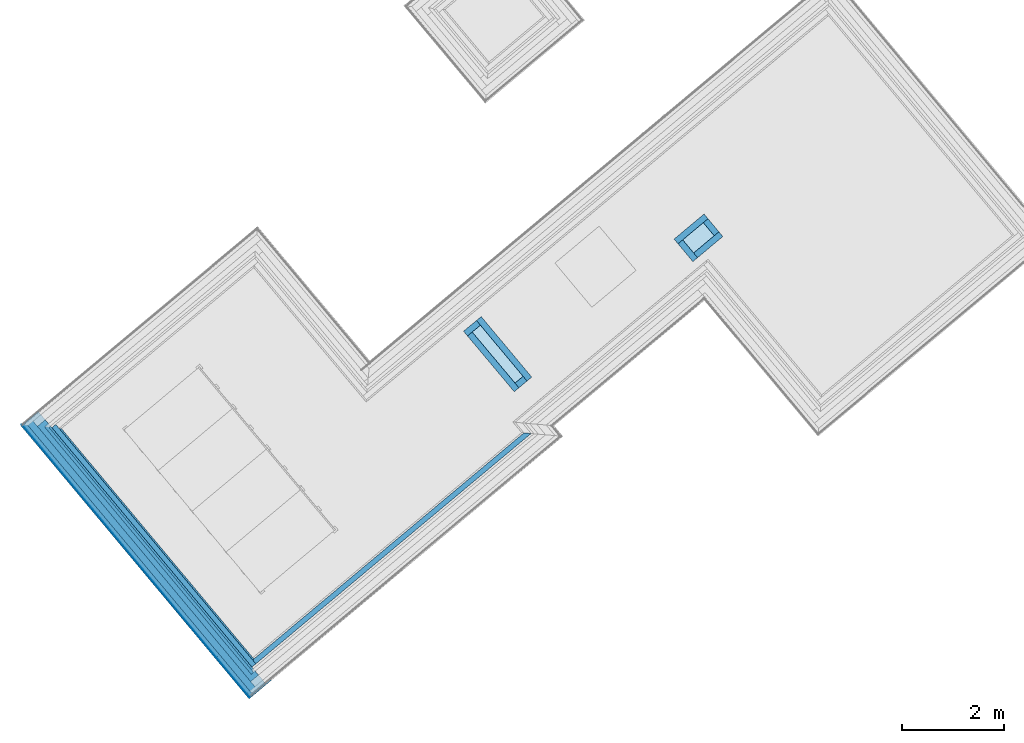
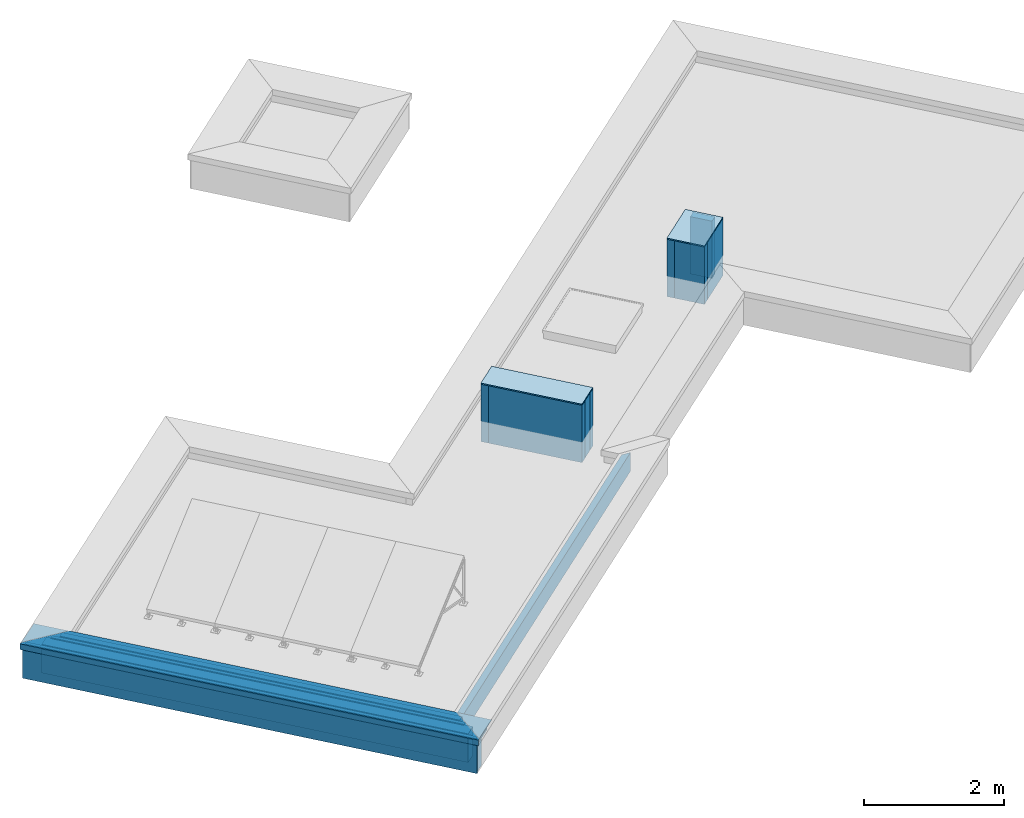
# One storey, part 1 of 13: 10 building element parts, 8 walls, 2 plates, 2 elements without a shape of their own.
"""IFC4 building model written with IfcOpenShell, lengths in metres."""

from ifc_helpers import new_model, entity, si_unit, converted_unit, derived_unit, direction, frame, origin_with_axes, place, context, subcontext, project, spatial, polygons, material, type_object, element, aggregate, save


model = new_model("IFC4")

# Units and contexts
model_context = context("Model", 3, precision=1e-05, world=origin_with_axes(), true_north=direction((0.0, 1.0)))
body_context = subcontext(model_context, "Body", "Model", "MODEL_VIEW")
ifc_project = project(units=[si_unit("LENGTHUNIT", "METRE"), si_unit("AREAUNIT", "SQUARE_METRE"), si_unit("VOLUMEUNIT", "CUBIC_METRE"), converted_unit("PLANEANGLEUNIT", "DEGREE", entity("IfcPlaneAngleMeasure", 0.0174532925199), si_unit("PLANEANGLEUNIT", "RADIAN"), dimensions=[0, 0, 0, 0, 0, 0, 0]), converted_unit("TIMEUNIT", "Year", entity("IfcTimeMeasure", 31556926.0), si_unit("TIMEUNIT", "SECOND"), dimensions=[0, 0, 1, 0, 0, 0, 0]), si_unit("MASSUNIT", "GRAM", prefix="KILO"), si_unit("THERMODYNAMICTEMPERATUREUNIT", "DEGREE_CELSIUS"), si_unit("LUMINOUSINTENSITYUNIT", "LUMEN"), si_unit("ENERGYUNIT", "JOULE", prefix="MEGA"), derived_unit("THERMALCONDUCTANCEUNIT", [(si_unit("POWERUNIT", "WATT"), 1), (si_unit("LENGTHUNIT", "METRE"), -1), (si_unit("THERMODYNAMICTEMPERATUREUNIT", "KELVIN"), -1)]), derived_unit("SPECIFICHEATCAPACITYUNIT", [(si_unit("ENERGYUNIT", "JOULE"), 1), (si_unit("MASSUNIT", "GRAM", prefix="KILO"), -1), (si_unit("THERMODYNAMICTEMPERATUREUNIT", "KELVIN"), -1)]), derived_unit("MASSDENSITYUNIT", [(si_unit("MASSUNIT", "GRAM", prefix="KILO"), 1), (si_unit("VOLUMEUNIT", "CUBIC_METRE"), -1)])], contexts=[model_context])

# Site, building, storey
site_placement = place(None, frame((-0.00153261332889, -0.00661245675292, 0.0), z_axis=(0.0, 0.0, 1.0), x_axis=(1.0, 0.0, 0.0)))
site = spatial("IfcSite", under=ifc_project, at=site_placement, Name="Gelände", CompositionType="ELEMENT")
building_placement = place(site_placement, origin_with_axes())
building = spatial("IfcBuilding", under=site, at=building_placement, Name="Gebäude", CompositionType="ELEMENT")
storey_placement = place(building_placement, frame((0.0, 0.0, 11.84), z_axis=(0.0, 0.0, 1.0), x_axis=(1.0, 0.0, 0.0)))
storey = spatial("IfcBuildingStorey", under=building, at=storey_placement, Name="DA", CompositionType="ELEMENT", Elevation=11.84)

# Plates
ifc_material_1 = material(Name="Blech")
plate_type = type_object("IfcPlateType", Name="Blech 20", PredefinedType="NOTDEFINED")
plate_1_placement = place(storey_placement, frame((0.883157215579, 19.7164409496, 1.0), z_axis=(0.0, 0.0, 1.0), x_axis=(0.769608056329, 0.638516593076, 0.0)))
element("IfcPlate", 1, at=plate_1_placement, inside=storey, type_object=plate_type, material=ifc_material_1, Name="Dach-002", PredefinedType="NOTDEFINED", context=body_context, shape_type="Tessellation", body=[
    polygons([(0.448840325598, 0.0, 0.02), (0.448840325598, 0.0, 0.0), (0.0, 0.0, 0.0), (0.0, 0.0, 0.02), (0.454235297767, -1.53957077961, 0.02), (0.454235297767, -1.53957077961, 0.0), (0.00809973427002, -1.54113413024, 0.0), (0.00809973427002, -1.54113413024, 0.02)], [[[1, 2, 3, 4]], [[5, 6, 2, 1]], [[3, 2, 6, 7]], [[4, 3, 7, 8]], [[5, 1, 4, 8]], [[8, 7, 6, 5]]], closed=True),
])
plate_2_placement = place(storey_placement, frame((4.99291504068, 21.5151888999, 1.0), z_axis=(0.0, 0.0, 1.0), x_axis=(0.767365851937, 0.641209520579, 0.0)))
element("IfcPlate", 2, at=plate_2_placement, inside=storey, type_object=plate_type, material=ifc_material_1, Name="Dach-003", PredefinedType="NOTDEFINED", context=body_context, shape_type="Tessellation", body=[
    polygons([(0.764405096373, 0.0, 0.02), (0.764405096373, 0.0, 0.0), (0.0, 0.0, 0.0), (0.0, 0.0, 0.02), (0.763279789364, -0.572701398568, 0.02), (0.763279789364, -0.572701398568, 0.0), (0.0, -0.572701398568, 0.0), (0.0, -0.572701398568, 0.02)], [[[1, 2, 3, 4]], [[5, 6, 2, 1]], [[3, 2, 6, 7]], [[4, 3, 7, 8]], [[5, 1, 4, 8]], [[8, 7, 6, 5]]], closed=True),
])

# Walls
ifc_material_2 = material(Name="Stahlbeton Decke Garage")
wall_type_1 = type_object("IfcWallType", Name="Stahlbeton Decke Garage 120", PredefinedType="NOTDEFINED")
wall_1_placement = place(storey_placement, frame((5.56417353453, 21.8361523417, 0.0), z_axis=(0.0, 0.0, 1.0), x_axis=(-0.767365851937, -0.641209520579, 0.0)))
element("IfcWall", 3, at=wall_1_placement, inside=storey, type_object=wall_type_1, material=ifc_material_2, Name="Wand-003", PredefinedType="NOTDEFINED", context=body_context, shape_type="Tessellation", body=[
    polygons([(0.644169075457, -0.12, 1.0), (0.644169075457, 0.0, 1.0), (-0.120000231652, 0.0, 1.0), (-0.120236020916, -0.12, 1.0), (0.644169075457, -0.12, 0.0), (0.644169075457, 0.0, 0.0), (-0.120000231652, 0.0, 0.0), (-0.120236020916, -0.12, 0.0)], [[[1, 2, 3, 4]], [[2, 1, 5, 6]], [[2, 6, 7, 3]], [[8, 4, 3, 7]], [[5, 1, 4, 8]], [[6, 5, 8, 7]]], closed=True),
])
wall_2_placement = place(storey_placement, frame((5.16194408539, 21.5000501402, 0.0), z_axis=(0.0, 0.0, 1.0), x_axis=(0.641209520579, -0.767365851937, 0.0)))
element("IfcWall", 4, at=wall_2_placement, inside=storey, type_object=wall_type_1, material=ifc_material_2, Name="Wand-004", PredefinedType="NOTDEFINED", context=body_context, shape_type="Tessellation", body=[
    polygons([(0.452701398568, -0.12, 1.0), (0.452701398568, 0.0, 1.0), (0.0, 0.0, 1.0), (0.0, -0.12, 1.0), (0.452701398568, -0.12, 0.0), (0.452701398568, 0.0, 0.0), (0.0, 0.0, 0.0), (0.0, -0.12, 0.0)], [[[1, 2, 3, 4]], [[2, 1, 5, 6]], [[2, 6, 7, 3]], [[8, 4, 3, 7]], [[5, 1, 4, 8]], [[6, 5, 8, 7]]], closed=True),
])
wall_3_placement = place(storey_placement, frame((5.37527538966, 21.244746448, 0.0), z_axis=(0.0, 0.0, 1.0), x_axis=(0.767365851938, 0.641209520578, 0.0)))
element("IfcWall", 5, at=wall_3_placement, inside=storey, type_object=wall_type_1, material=ifc_material_2, Name="Wand-005", PredefinedType="NOTDEFINED", context=body_context, shape_type="Tessellation", body=[
    polygons([(0.643279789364, -0.12, 1.0), (0.643515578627, 0.0, 1.0), (0.0, 0.0, 1.0), (0.0, -0.12, 1.0), (0.643279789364, -0.12, 0.0), (0.643515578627, 0.0, 0.0), (0.0, 0.0, 0.0), (0.0, -0.12, 0.0)], [[[1, 2, 3, 4]], [[2, 1, 5, 6]], [[2, 6, 7, 3]], [[8, 4, 3, 7]], [[5, 1, 4, 8]], [[6, 5, 8, 7]]], closed=True),
])
wall_4_placement = place(storey_placement, frame((5.77700318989, 21.5804294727, 0.0), z_axis=(0.0, 0.0, 1.0), x_axis=(-0.639700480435, 0.768624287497, 0.0)))
element("IfcWall", 6, at=wall_4_placement, inside=storey, type_object=wall_type_1, material=ifc_material_2, Name="Wand-006", PredefinedType="NOTDEFINED", context=body_context, shape_type="Tessellation", body=[
    polygons([(0.33293783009, -0.12, 1.0), (0.332702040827, 0.0, 1.0), (0.0, 0.0, 1.0), (0.000235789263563, -0.12, 1.0), (0.33293783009, -0.12, 0.0), (0.332702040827, 0.0, 0.0), (0.0, 0.0, 0.0), (0.000235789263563, -0.12, 0.0)], [[[1, 2, 3, 4]], [[2, 1, 5, 6]], [[2, 6, 7, 3]], [[8, 4, 3, 7]], [[5, 1, 4, 8]], [[6, 5, 8, 7]]], closed=True),
])
wall_5_placement = place(storey_placement, frame((2.0467528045, 18.8367504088, 0.0), z_axis=(0.0, 0.0, 1.0), x_axis=(-0.641209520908, 0.767365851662, 0.0)))
element("IfcWall", 7, at=wall_5_placement, inside=storey, type_object=wall_type_1, material=ifc_material_2, Name="Wand-007", PredefinedType="NOTDEFINED", context=body_context, shape_type="Tessellation", body=[
    polygons([(1.41958023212, -0.12, 1.0), (1.42000073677, 0.0, 1.0), (-0.12, 0.0, 1.0), (-0.12, -0.12, 1.0), (1.41958023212, -0.12, 0.0), (1.42000073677, 0.0, 0.0), (-0.12, 0.0, 0.0), (-0.12, -0.12, 0.0)], [[[1, 2, 3, 4]], [[2, 1, 5, 6]], [[2, 6, 7, 3]], [[8, 4, 3, 7]], [[5, 1, 4, 8]], [[6, 5, 8, 7]]], closed=True),
])
wall_6_placement = place(storey_placement, frame((1.21318042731, 19.834326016, 0.0), z_axis=(0.0, 0.0, 1.0), x_axis=(-0.769608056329, -0.638516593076, 0.0)))
element("IfcWall", 8, at=wall_6_placement, inside=storey, type_object=wall_type_1, material=ifc_material_2, Name="Wand-008", PredefinedType="NOTDEFINED", context=body_context, shape_type="Tessellation", body=[
    polygons([(0.329260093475, -0.12, 1.0), (0.328629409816, 0.0, 1.0), (0.0, 0.0, 1.0), (0.000420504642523, -0.12, 1.0), (0.329260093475, -0.12, 0.0), (0.328629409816, 0.0, 0.0), (0.0, 0.0, 0.0), (0.000420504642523, -0.12, 0.0)], [[[1, 2, 3, 4]], [[2, 1, 5, 6]], [[2, 6, 7, 3]], [[8, 4, 3, 7]], [[5, 1, 4, 8]], [[6, 5, 8, 7]]], closed=True),
])
wall_7_placement = place(storey_placement, frame((1.05261882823, 19.7011137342, 0.0), z_axis=(0.0, 0.0, 1.0), x_axis=(0.642552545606, -0.766241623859, 0.0)))
element("IfcWall", 9, at=wall_7_placement, inside=storey, type_object=wall_type_1, material=ifc_material_2, Name="Wand-009", PredefinedType="NOTDEFINED", context=body_context, shape_type="Tessellation", body=[
    polygons([(1.42052307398, -0.12, 1.0), (1.42073324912, 0.0, 1.0), (0.0, 0.0, 1.0), (-0.000630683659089, -0.12, 1.0), (1.42052307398, -0.12, 0.0), (1.42073324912, 0.0, 0.0), (0.0, 0.0, 0.0), (-0.000630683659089, -0.12, 0.0)], [[[1, 2, 3, 4]], [[2, 1, 5, 6]], [[2, 6, 7, 3]], [[8, 4, 3, 7]], [[5, 1, 4, 8]], [[6, 5, 8, 7]]], closed=True),
])
wall_8_placement = place(storey_placement, frame((1.88840817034, 18.7044379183, 0.0), z_axis=(0.0, 0.0, 1.0), x_axis=(0.767365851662, 0.641209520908, 0.0)))
element("IfcWall", 10, at=wall_8_placement, inside=storey, type_object=wall_type_1, material=ifc_material_2, Name="Wand-010", PredefinedType="NOTDEFINED", context=body_context, shape_type="Tessellation", body=[
    polygons([(0.206348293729, -0.12, 1.0), (0.206348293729, 0.0, 1.0), (0.0, 0.0, 1.0), (0.000210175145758, -0.12, 1.0), (0.206348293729, -0.12, 0.0), (0.206348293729, 0.0, 0.0), (0.0, 0.0, 0.0), (0.000210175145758, -0.12, 0.0)], [[[1, 2, 3, 4]], [[2, 1, 5, 6]], [[2, 6, 7, 3]], [[8, 4, 3, 7]], [[5, 1, 4, 8]], [[6, 5, 8, 7]]], closed=True),
])

# Wall, building element parts
wall_type_2 = type_object("IfcWallType", Name="Individuelles Profil 574 x 610", PredefinedType="NOTDEFINED")
wall_9_placement = place(storey_placement, frame((-3.27188579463, 12.8778068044, 0.0), z_axis=(0.0, 0.0, 1.0), x_axis=(-0.641209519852, 0.767365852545, 0.0)))
wall_9 = element("IfcWall", 11, at=wall_9_placement, inside=storey, type_object=wall_type_2, Name="Wand-004", PredefinedType="NOTDEFINED")
ifc_material_3 = material(Name="Zementputz")
building_element_part_1_placement = place(wall_9_placement, origin_with_axes())
building_element_part_1 = element("IfcBuildingElementPart", 12, at=building_element_part_1_placement, material=ifc_material_3, Name="Zementputz", PredefinedType="NOTDEFINED", context=body_context, shape_type="Tessellation", body=[
    polygons([(6.70719506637, 0.199999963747, 0.0), (6.70719506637, 0.199999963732, 0.50000001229), (-0.215130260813, 0.19999996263, 0.50000001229), (-0.215129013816, 0.199999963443, 0.0), (6.70719506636, 0.214999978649, 0.0), (6.70719506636, 0.214999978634, 0.50000001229), (-0.215140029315, 0.214999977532, 0.50000001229), (-0.21513875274, 0.214999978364, 0.0)], [[[1, 2, 3, 4]], [[2, 1, 5, 6]], [[2, 6, 7, 3]], [[4, 3, 7, 8]], [[5, 1, 4, 8]], [[6, 5, 8, 7]]], closed=True),
])
ifc_material_4 = material(Name="Vollholz")
building_element_part_2_placement = place(wall_9_placement, origin_with_axes())
building_element_part_2 = element("IfcBuildingElementPart", 13, at=building_element_part_2_placement, material=ifc_material_4, Name="Vollholz", PredefinedType="NOTDEFINED", context=body_context, shape_type="Tessellation", body=[
    polygons([(6.68219122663, 0.189996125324, 0.584015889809), (6.68219122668, 0.130124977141, 0.584015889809), (6.68223434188, 0.130124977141, 0.575979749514), (6.68223434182, 0.190039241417, 0.575979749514), (6.68218025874, 0.189984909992, 0.586106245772), (-0.190080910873, 0.13012497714, 0.584015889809), (-0.190124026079, 0.130124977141, 0.575979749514), (-0.190135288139, 0.130124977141, 0.573880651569), (-0.19016711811, 0.130124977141, 0.567947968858), (-0.190209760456, 0.130124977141, 0.560000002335), (6.68232007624, 0.130124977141, 0.560000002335), (6.6822774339, 0.130124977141, 0.567947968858), (6.68224560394, 0.130124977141, 0.573880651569), (6.68224560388, 0.190050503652, 0.573880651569), (6.68227743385, 0.190082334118, 0.567947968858), (6.68232007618, 0.190124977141, 0.560000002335), (-0.190248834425, 0.190124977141, 0.560000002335), (-0.190206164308, 0.190082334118, 0.567947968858), (-0.190174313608, 0.190050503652, 0.573880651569), (-0.190163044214, 0.190039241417, 0.575979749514), (-0.190119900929, 0.189996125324, 0.584015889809), (-0.190108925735, 0.189984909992, 0.586106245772)], [[[1, 2, 3, 4]], [[5, 2, 1]], [[3, 2, 6, 7, 8, 9, 10, 11, 12, 13]], [[4, 3, 13, 14]], [[5, 1, 4, 14, 15, 16, 17, 18, 19, 20, 21, 22]], [[2, 5, 22, 6]], [[6, 21, 20, 7]], [[7, 20, 19, 8]], [[8, 19, 18, 9]], [[9, 18, 17, 10]], [[16, 11, 10, 17]], [[15, 12, 11, 16]], [[14, 13, 12, 15]], [[21, 6, 22]]], closed=True),
])
ifc_material_5 = material(Name="EPS 1")
building_element_part_3_placement = place(wall_9_placement, origin_with_axes())
building_element_part_3 = element("IfcBuildingElementPart", 14, at=building_element_part_3_placement, material=ifc_material_5, Name="EPS 1", PredefinedType="NOTDEFINED", context=body_context, shape_type="Tessellation", body=[
    polygons([(6.69219506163, -2.1767352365e-09, 0.498822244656), (6.69219506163, -2.18911822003e-09, 0.5), (-0.200000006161, -3.28642713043e-09, 0.5), (-0.200000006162, -2.17673612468e-09, 0.498822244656), (-0.200000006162, -2.17673612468e-09, 0.491006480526), (-0.200000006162, -2.17673612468e-09, 0.488695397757), (-0.200000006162, -2.17673612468e-09, 0.235000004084), (-0.200000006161, -2.73063083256e-09, 0.0), (6.69219506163, -2.17793694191e-09, 0.0), (6.69219506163, -2.1767352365e-09, 0.235000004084), (6.69219506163, -2.1767352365e-09, 0.488695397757), (6.69219506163, -2.1767352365e-09, 0.491006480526), (6.69219506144, 0.199999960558, 0.5), (6.69219506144, 0.19999996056, 0.498822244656), (-0.200130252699, 0.199999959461, 0.5), (-0.200130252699, 0.19999996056, 0.498822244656), (-0.200130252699, 0.19999996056, 0.491006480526), (-0.200130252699, 0.19999996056, 0.488695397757), (-0.200130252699, 0.19999996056, 0.235000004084), (-0.200130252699, 0.199999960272, 0.0), (6.69219506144, 0.199999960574, 0.0), (6.69219506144, 0.19999996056, 0.235000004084), (6.69219506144, 0.19999996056, 0.488695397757), (6.69219506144, 0.19999996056, 0.491006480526)], [[[1, 2, 3, 4, 5, 6, 7, 8, 9, 10, 11, 12]], [[13, 2, 1, 14]], [[2, 13, 15, 3]], [[4, 3, 15, 16]], [[4, 16, 17, 5]], [[5, 17, 18, 6]], [[6, 18, 19, 7]], [[7, 19, 20, 8]], [[21, 9, 8, 20]], [[22, 10, 9, 21]], [[23, 11, 10, 22]], [[24, 12, 11, 23]], [[14, 1, 12, 24]], [[13, 14, 24, 23, 22, 21, 20, 19, 18, 17, 16, 15]]], closed=True),
])
ifc_material_6 = material(Name="Brettschichtholz")
building_element_part_4_placement = place(wall_9_placement, origin_with_axes())
building_element_part_4 = element("IfcBuildingElementPart", 15, at=building_element_part_4_placement, material=ifc_material_6, Name="Brettschichtholz", PredefinedType="NOTDEFINED", context=body_context, shape_type="Tessellation", body=[
    polygons([(6.70719507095, -0.200000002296, 0.519224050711), (6.7071950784, -0.200000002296, 0.559999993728), (-0.214869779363, -0.200000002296, 0.559999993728), (-0.214869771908, -0.200000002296, 0.519224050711), (-0.21486977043, -0.200000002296, 0.51136132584), (-0.214869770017, -0.200000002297, 0.509050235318), (-0.214869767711, -0.200000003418, 0.50000001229), (6.70719506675, -0.200000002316, 0.50000001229), (6.70719506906, -0.200000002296, 0.509050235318), (6.70719506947, -0.200000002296, 0.51136132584), (6.70719507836, -0.159999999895, 0.559999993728), (6.70719507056, 0.214999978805, 0.519224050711), (6.70719507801, 0.214999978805, 0.559999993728), (6.70719507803, 0.190124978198, 0.559999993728), (6.70719507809, 0.130124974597, 0.559999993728), (6.70719507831, -0.0999999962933, 0.559999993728), (-0.214895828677, -0.159999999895, 0.559999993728), (-0.214934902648, -0.0999999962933, 0.559999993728), (-0.215084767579, 0.130124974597, 0.559999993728), (-0.21512384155, 0.190124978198, 0.559999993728), (-0.215140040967, 0.214999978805, 0.559999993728), (-0.215140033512, 0.214999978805, 0.519224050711), (-0.215140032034, 0.214999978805, 0.51136132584), (-0.215140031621, 0.214999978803, 0.509050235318), (-0.215140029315, 0.214999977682, 0.50000001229), (6.70719506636, 0.214999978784, 0.50000001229), (6.70719506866, 0.214999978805, 0.509050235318), (6.70719506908, 0.214999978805, 0.51136132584)], [[[1, 2, 3, 4, 5, 6, 7, 8, 9, 10]], [[11, 2, 1, 12, 13, 14, 15, 16]], [[2, 11, 17, 3]], [[4, 3, 17, 18, 19, 20, 21, 22]], [[4, 22, 23, 5]], [[5, 23, 24, 6]], [[6, 24, 25, 7]], [[25, 26, 8, 7]], [[27, 9, 8, 26]], [[28, 10, 9, 27]], [[12, 1, 10, 28]], [[13, 12, 28, 27, 26, 25, 24, 23, 22, 21]], [[14, 13, 21, 20]], [[15, 14, 20, 19]], [[16, 15, 19, 18]], [[11, 16, 18, 17]]], closed=True),
])
ifc_material_7 = material(Name="Stahlbeton Wand Garage")
building_element_part_5_placement = place(wall_9_placement, origin_with_axes())
building_element_part_5 = element("IfcBuildingElementPart", 16, at=building_element_part_5_placement, material=ifc_material_7, Name="Stahlbeton Wand Garage", PredefinedType="NOTDEFINED", context=body_context, shape_type="Tessellation", body=[
    polygons([(6.4921950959, -0.200000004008, 0.498822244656), (6.4921950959, -0.200000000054, 0.5), (0.00013024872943, -0.200000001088, 0.5), (0.000130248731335, -0.200000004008, 0.498822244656), (0.000130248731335, -0.200000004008, 0.491006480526), (0.000130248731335, -0.200000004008, 0.488695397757), (0.000130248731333, -0.200000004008, 0.235000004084), (6.4921950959, -0.200000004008, 0.235000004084), (6.4921950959, -0.200000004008, 0.488695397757), (6.4921950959, -0.200000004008, 0.491006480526), (6.49219509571, 0.0, 0.5), (6.49219509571, 0.0, 0.498822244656), (2.16729745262e-09, -1.08799813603e-09, 0.5), (2.16660467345e-09, 0.0, 0.498822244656), (2.16660467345e-09, 0.0, 0.491006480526), (2.16660467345e-09, 0.0, 0.488695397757), (2.16660467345e-09, 0.0, 0.235000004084), (6.4921950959, -0.20000000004, 0.0), (0.000130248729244, -0.200000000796, 0.0), (6.49219509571, 0.0, 0.488695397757), (6.49219509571, 0.0, 0.235000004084), (6.49219509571, 0.0, 0.491006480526), (6.49219509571, 0.0, 0.0), (2.16694928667e-09, -5.4800342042e-10, 0.0)], [[[1, 2, 3, 4, 5, 6, 7, 8, 9, 10]], [[11, 2, 1, 12]], [[2, 11, 13, 3]], [[13, 14, 4, 3]], [[15, 5, 4, 14]], [[16, 6, 5, 15]], [[17, 7, 6, 16]], [[18, 8, 7, 19]], [[20, 9, 8, 21]], [[22, 10, 9, 20]], [[12, 1, 10, 22]], [[11, 12, 22, 20, 21, 23, 24, 17, 16, 15, 14, 13]], [[24, 19, 7, 17]], [[21, 8, 18, 23]], [[23, 18, 19, 24]]], closed=True),
])
building_element_part_6_placement = place(wall_9_placement, origin_with_axes())
building_element_part_6 = element("IfcBuildingElementPart", 17, at=building_element_part_6_placement, material=ifc_material_4, Name="Vollholz", PredefinedType="NOTDEFINED", context=body_context, shape_type="Tessellation", body=[
    polygons([(6.39219510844, -0.1, 0.573880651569), (6.3921951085, -0.160110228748, 0.573880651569), (6.3921951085, -0.160063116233, 0.567947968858), (6.39219510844, -0.1, 0.567947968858), (6.39219510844, -0.1, 0.575979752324), (0.100104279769, -0.160110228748, 0.573880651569), (0.100104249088, -0.160063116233, 0.567947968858), (0.100104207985, -0.16, 0.560000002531), (6.3921951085, -0.16, 0.560000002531), (6.39219510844, -0.1, 0.560000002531), (0.100065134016, -0.1, 0.560000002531), (0.100065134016, -0.1, 0.567947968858), (0.100065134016, -0.1, 0.573880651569), (0.100065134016, -0.1, 0.575979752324)], [[[1, 2, 3, 4]], [[5, 2, 1]], [[3, 2, 6, 7, 8, 9]], [[4, 3, 9, 10]], [[5, 1, 4, 10, 11, 12, 13, 14]], [[2, 5, 14, 6]], [[6, 13, 12, 7]], [[7, 12, 11, 8]], [[10, 9, 8, 11]], [[13, 6, 14]]], closed=True),
])
building_element_part_7_placement = place(wall_9_placement, origin_with_axes())
building_element_part_7 = element("IfcBuildingElementPart", 18, at=building_element_part_7_placement, material=ifc_material_5, Name="EPS 1", PredefinedType="NOTDEFINED", context=body_context, shape_type="Tessellation", body=[
    polygons([(6.29219509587, -0.30000000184, 0.519224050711), (6.29219509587, -0.30000000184, 0.560000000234), (0.20019541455, -0.30000000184, 0.560000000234), (0.20019541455, -0.30000000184, 0.519224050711), (0.20019541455, -0.30000000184, 0.51136132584), (0.20019541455, -0.30000000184, 0.509050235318), (0.20019541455, -0.300000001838, 0.499999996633), (0.200195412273, -0.30000000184, 0.498822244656), (0.200195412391, -0.30000000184, 0.491006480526), (0.200195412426, -0.30000000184, 0.488695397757), (0.200195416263, -0.30000000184, 0.235000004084), (6.29219509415, -0.30000000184, 0.235000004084), (6.29219509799, -0.30000000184, 0.488695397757), (6.29219509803, -0.30000000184, 0.491006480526), (6.29219509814, -0.30000000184, 0.498822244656), (6.29219509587, -0.30000000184, 0.499999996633), (6.29219509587, -0.30000000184, 0.509050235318), (6.29219509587, -0.30000000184, 0.51136132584), (6.29219509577, -0.200000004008, 0.560000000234), (6.29219509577, -0.200000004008, 0.519224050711), (0.200130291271, -0.200000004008, 0.560000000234), (0.200130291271, -0.200000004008, 0.519224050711), (0.200130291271, -0.200000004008, 0.51136132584), (0.200130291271, -0.200000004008, 0.509050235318), (0.200130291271, -0.200000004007, 0.499999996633), (0.200130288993, -0.200000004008, 0.498822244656), (0.200130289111, -0.200000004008, 0.491006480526), (0.200130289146, -0.200000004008, 0.488695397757), (0.200130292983, -0.200000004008, 0.235000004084), (6.29219509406, -0.200000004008, 0.235000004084), (6.2921950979, -0.200000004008, 0.488695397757), (6.29219509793, -0.200000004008, 0.491006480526), (6.29219509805, -0.200000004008, 0.498822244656), (6.29219509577, -0.200000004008, 0.499999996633), (6.29219509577, -0.200000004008, 0.509050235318), (6.29219509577, -0.200000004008, 0.51136132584)], [[[1, 2, 3, 4, 5, 6, 7, 8, 9, 10, 11, 12, 13, 14, 15, 16, 17, 18]], [[19, 2, 1, 20]], [[2, 19, 21, 3]], [[4, 3, 21, 22]], [[4, 22, 23, 5]], [[5, 23, 24, 6]], [[6, 24, 25, 7]], [[7, 25, 26, 8]], [[8, 26, 27, 9]], [[9, 27, 28, 10]], [[10, 28, 29, 11]], [[30, 12, 11, 29]], [[31, 13, 12, 30]], [[32, 14, 13, 31]], [[33, 15, 14, 32]], [[34, 16, 15, 33]], [[35, 17, 16, 34]], [[36, 18, 17, 35]], [[20, 1, 18, 36]], [[19, 20, 36, 35, 34, 33, 32, 31, 30, 29, 28, 27, 26, 25, 24, 23, 22, 21]]], closed=True),
])
ifc_material_8 = material(Name="Holzwerkstoff")
building_element_part_8_placement = place(wall_9_placement, origin_with_axes())
building_element_part_8 = element("IfcBuildingElementPart", 19, at=building_element_part_8_placement, material=ifc_material_8, Name="Holzwerkstoff", PredefinedType="NOTDEFINED", context=body_context, shape_type="Tessellation", body=[
    polygons([(6.6223200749, 0.130124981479, 0.584015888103), (6.68218025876, 0.189984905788, 0.586106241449), (6.68218025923, -0.330634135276, 0.586106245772), (6.62232007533, -0.33056113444, 0.584015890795), (-0.130209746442, 0.130125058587, 0.584015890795), (-0.190108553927, 0.189984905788, 0.586106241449), (6.73219509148, 0.239999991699, 0.587852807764), (6.73219509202, -0.330695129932, 0.587852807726), (6.3320848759, -0.330207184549, 0.573880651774), (6.39219510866, -0.330280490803, 0.575979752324), (6.73219213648, -0.330698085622, 0.587937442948), (-0.239781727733, -0.330698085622, 0.587937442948), (-0.239784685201, -0.330695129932, 0.587852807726), (-0.18976963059, -0.330634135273, 0.586106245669), (-0.129909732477, -0.33056113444, 0.584015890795), (0.100215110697, -0.330280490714, 0.575979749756), (0.160325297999, -0.330207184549, 0.573880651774), (0.330214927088, -0.329999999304, 0.567947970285), (6.16219514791, -0.329999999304, 0.567947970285), (6.39219509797, -0.0999999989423, 0.575979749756), (0.100065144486, -0.0999999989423, 0.575979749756), (-0.240156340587, 0.239999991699, 0.587852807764), (6.73219213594, 0.239997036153, 0.587937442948), (6.33208486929, -0.160110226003, 0.573880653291), (6.73147159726, 0.239276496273, 0.608570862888), (-0.239432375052, 0.239276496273, 0.608570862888), (-0.240153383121, 0.239997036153, 0.587937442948), (0.160214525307, -0.160110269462, 0.573880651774)], [[[1, 2, 3, 4]], [[2, 1, 5, 6]], [[2, 7, 8, 3]], [[9, 10, 4, 3, 8, 11, 12, 13, 14, 15, 16, 17, 18, 19]], [[20, 1, 4, 10]], [[1, 20, 21, 5]], [[6, 5, 15, 14]], [[7, 2, 6, 22]], [[7, 23, 11, 8]], [[9, 24, 20, 10]], [[11, 25, 26, 12]], [[27, 22, 13, 12]], [[22, 6, 14, 13]], [[5, 21, 16, 15]], [[21, 28, 17, 16]], [[28, 18, 17]], [[19, 18, 28, 24]], [[24, 9, 19]], [[20, 24, 28, 21]], [[23, 7, 22, 27, 26, 25]], [[23, 25, 11]], [[26, 27, 12]]], closed=True),
])
ifc_material_9 = material(Name="Stahl")
building_element_part_9_placement = place(wall_9_placement, origin_with_axes())
building_element_part_9 = element("IfcBuildingElementPart", 20, at=building_element_part_9_placement, material=ifc_material_9, Name="Stahl", PredefinedType="NOTDEFINED", context=body_context, shape_type="Tessellation", body=[
    polygons([(6.733695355, 0.240146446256, 0.51136132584), (6.73234154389, 0.240146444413, 0.51136132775), (6.73234154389, 0.238231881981, 0.51136132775), (6.73369535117, 0.238231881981, 0.51136132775), (6.733695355, 0.240152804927, 0.608602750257), (6.73234790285, 0.240152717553, 0.608602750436), (-0.240309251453, 0.240152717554, 0.608602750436), (-0.241656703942, 0.240152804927, 0.608602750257), (-0.241656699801, 0.240146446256, 0.51136132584), (-0.240302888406, 0.240146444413, 0.51136132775), (6.72447882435, 0.232283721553, 0.51922405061), (6.72548307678, 0.231373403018, 0.518219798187), (6.7327380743, 0.240542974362, 0.509050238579), (6.733695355, 0.239585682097, 0.510007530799), (-0.23343870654, 0.231373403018, 0.518219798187), (-0.24030164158, 0.238231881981, 0.51136132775), (-0.241655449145, 0.238231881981, 0.51136132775), (-0.241656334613, 0.239585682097, 0.510007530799), (-0.240699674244, 0.240542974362, 0.509050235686), (6.73369535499, 0.241500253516, 0.510007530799), (6.73369535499, 0.241500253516, 0.610006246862), (6.7336953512, 0.202730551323, 0.608602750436), (6.73234790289, 0.202730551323, 0.608602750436), (6.7315998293, 0.23927649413, 0.608570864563), (6.73155586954, 0.239360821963, 0.608573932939), (6.7314715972, 0.239276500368, 0.608570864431), (-0.239432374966, 0.239276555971, 0.608570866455), (-0.239516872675, 0.239360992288, 0.608573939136), (-0.240284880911, 0.202730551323, 0.608602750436), (-0.241632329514, 0.202730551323, 0.608602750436), (-0.241657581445, 0.241500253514, 0.510007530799), (-0.241657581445, 0.241500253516, 0.610006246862), (-0.232435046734, 0.232283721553, 0.51922405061), (-0.239408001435, 0.201849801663, 0.608570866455), (0.294846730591, -0.332051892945, 0.58924311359), (6.19756467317, -0.332051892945, 0.58924311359), (6.73147159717, 0.201849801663, 0.608570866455), (6.16149701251, -0.330698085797, 0.587937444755), (0.330913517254, -0.330698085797, 0.587937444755), (0.330914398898, -0.332051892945, 0.587937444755), (0.330914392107, -0.332051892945, 0.586106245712), (0.330914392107, -0.332051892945, 0.584015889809), (0.330914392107, -0.332051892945, 0.575979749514), (0.330914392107, -0.332051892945, 0.573880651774), (0.330914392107, -0.332051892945, 0.567947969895), (0.330914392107, -0.332051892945, 0.55999999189), (0.330914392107, -0.332051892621, 0.519224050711), (0.330914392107, -0.332051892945, 0.51136132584), (0.330914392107, -0.332051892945, 0.509050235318), (0.330914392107, -0.332051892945, 0.499999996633), (0.330914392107, -0.332051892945, 0.498822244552), (0.330914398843, -0.332051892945, 0.491006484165), (0.328999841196, -0.332051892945, 0.491006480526), (0.330353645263, -0.332051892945, 0.489652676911), (6.16205776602, -0.332051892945, 0.489652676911), (6.1634115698, -0.332051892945, 0.491006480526), (6.16149701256, -0.332051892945, 0.491006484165), (6.1614970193, -0.332051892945, 0.498822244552), (6.1614970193, -0.332051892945, 0.499999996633), (6.1614970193, -0.332051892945, 0.509050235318), (6.1614970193, -0.332051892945, 0.51136132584), (6.1614970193, -0.332051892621, 0.519224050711), (6.1614970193, -0.332051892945, 0.55999999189), (6.1614970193, -0.332051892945, 0.567947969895), (6.1614970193, -0.332051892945, 0.573880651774), (6.1614970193, -0.332051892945, 0.575979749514), (6.1614970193, -0.332051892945, 0.584015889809), (6.1614970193, -0.332051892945, 0.586106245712), (6.16149701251, -0.332051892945, 0.587937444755), (6.1614970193, -0.330698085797, 0.498822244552), (6.16149701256, -0.330698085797, 0.491006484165), (0.330913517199, -0.330698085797, 0.491006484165), (0.330913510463, -0.330698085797, 0.498822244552), (0.330913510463, -0.330698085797, 0.499999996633), (0.330913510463, -0.330698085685, 0.509050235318), (0.330913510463, -0.330698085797, 0.51136132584), (0.330913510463, -0.330698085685, 0.519224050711), (0.330913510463, -0.330698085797, 0.55999999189), (0.330913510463, -0.330698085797, 0.567947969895), (0.330913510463, -0.330698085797, 0.573880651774), (0.330913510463, -0.330698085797, 0.575979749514), (0.330913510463, -0.330698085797, 0.584015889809), (0.330913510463, -0.330698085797, 0.586106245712), (6.1614970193, -0.330698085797, 0.586106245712), (6.1614970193, -0.330698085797, 0.584015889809), (6.1614970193, -0.330698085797, 0.575979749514), (6.1614970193, -0.330698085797, 0.573880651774), (6.1614970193, -0.330698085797, 0.567947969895), (6.1614970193, -0.330698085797, 0.55999999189), (6.1614970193, -0.330698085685, 0.519224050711), (6.1614970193, -0.330698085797, 0.51136132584), (6.1614970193, -0.330698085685, 0.509050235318), (6.1614970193, -0.330698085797, 0.499999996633), (0.328998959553, -0.330698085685, 0.491006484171), (0.328997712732, -0.328783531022, 0.491006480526), (0.33131029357, -0.331094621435, 0.4886954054), (6.16110049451, -0.331094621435, 0.4886954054), (6.1634115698, -0.328783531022, 0.491006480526), (6.1634115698, -0.330698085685, 0.491006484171), (6.16931277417, -0.32288233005, 0.498822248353), (0.32309266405, -0.32288233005, 0.498822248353), (0.322089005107, -0.323792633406, 0.497911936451), (6.17031702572, -0.323792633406, 0.497911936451), (0.322087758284, -0.321878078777, 0.497911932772), (6.17031702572, -0.321878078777, 0.497911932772)], [[[1, 2, 3, 4]], [[5, 6, 7, 8, 9, 10, 2, 1]], [[11, 12, 3, 2]], [[13, 14, 4, 3, 12, 15, 16, 17, 18, 19]], [[14, 20, 21, 22, 5, 1, 4]], [[6, 5, 22, 23]], [[24, 25, 26, 27, 28, 7, 6]], [[8, 7, 29, 30]], [[31, 18, 17, 9, 8, 30, 32]], [[10, 9, 17, 16]], [[11, 2, 10, 33]], [[12, 11, 33, 15]], [[13, 20, 14]], [[10, 16, 15, 33]], [[31, 19, 18]], [[20, 13, 19, 31]], [[21, 20, 31, 32]], [[23, 22, 21, 32, 30, 29, 34, 35, 36, 37]], [[26, 24, 6, 23, 37]], [[25, 24, 26]], [[27, 26, 38, 39]], [[28, 27, 34, 29, 7]], [[34, 27, 39, 40, 35]], [[36, 35, 40, 41, 42, 43, 44, 45, 46, 47, 48, 49, 50, 51, 52, 53, 54, 55, 56, 57, 58, 59, 60, 61, 62, 63, 64, 65, 66, 67, 68, 69]], [[26, 37, 36, 69, 38]], [[70, 71, 72, 73, 74, 75, 76, 77, 78, 79, 80, 81, 82, 83, 39, 38, 84, 85, 86, 87, 88, 89, 90, 91, 92, 93]], [[39, 83, 41, 40]], [[83, 82, 42, 41]], [[82, 81, 43, 42]], [[81, 80, 44, 43]], [[80, 79, 45, 44]], [[79, 78, 46, 45]], [[78, 77, 47, 46]], [[77, 76, 48, 47]], [[76, 75, 49, 48]], [[75, 74, 50, 49]], [[74, 73, 51, 50]], [[73, 72, 52, 51]], [[72, 94, 53, 52]], [[95, 96, 54, 53, 94]], [[97, 55, 54, 96]], [[98, 99, 56, 55, 97]], [[99, 71, 57, 56]], [[71, 70, 58, 57]], [[70, 93, 59, 58]], [[93, 92, 60, 59]], [[92, 91, 61, 60]], [[61, 91, 90, 62]], [[89, 63, 62, 90]], [[89, 88, 64, 63]], [[88, 87, 65, 64]], [[87, 86, 66, 65]], [[86, 85, 67, 66]], [[85, 84, 68, 67]], [[84, 38, 69, 68]], [[100, 101, 102, 94, 72, 71, 99, 103]], [[104, 105, 98, 97, 96, 95]], [[104, 95, 94, 102]], [[99, 98, 105, 103]], [[105, 104, 101, 100]], [[101, 104, 102]], [[105, 100, 103]]], closed=True),
])
aggregate(wall_9, [building_element_part_1, building_element_part_2, building_element_part_3, building_element_part_4, building_element_part_5, building_element_part_6, building_element_part_7, building_element_part_8, building_element_part_9])

# Wall, building element part
wall_10_placement = place(storey_placement, frame((2.48571839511, 17.6952214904, 0.0), z_axis=(0.0, 0.0, 1.0), x_axis=(-0.766948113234, -0.641709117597, 0.0)))
wall_10 = element("IfcWall", 21, at=wall_10_placement, inside=storey, type_object=wall_type_2, Name="Wand-004", PredefinedType="NOTDEFINED")
building_element_part_10_placement = place(wall_10_placement, origin_with_axes())
building_element_part_10 = element("IfcBuildingElementPart", 22, at=building_element_part_10_placement, material=ifc_material_5, Name="EPS 1", PredefinedType="NOTDEFINED", context=body_context, shape_type="Tessellation", body=[
    polygons([(7.206967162, -0.300000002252, 0.235000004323), (7.20703228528, -0.200000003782, 0.235000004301), (7.20703228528, -0.200000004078, 0.488695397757), (7.206967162, -0.300000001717, 0.488695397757), (0.299575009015, -0.30000000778, 0.23500000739), (0.199716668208, -0.200000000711, 0.23500000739), (0.19971667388, -0.200000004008, 0.560000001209), (7.20703228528, -0.200000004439, 0.560000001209), (7.20703228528, -0.200000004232, 0.519224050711), (7.20703228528, -0.200000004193, 0.51136132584), (7.20703228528, -0.200000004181, 0.509050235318), (7.20703228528, -0.200000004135, 0.499999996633), (7.20703228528, -0.200000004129, 0.498822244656), (7.20703228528, -0.200000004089, 0.491006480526), (7.206967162, -0.300000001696, 0.491006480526), (7.206967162, -0.300000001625, 0.498822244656), (7.206967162, -0.300000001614, 0.499999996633), (7.206967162, -0.300000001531, 0.509050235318), (7.206967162, -0.30000000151, 0.51136132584), (7.206967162, -0.300000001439, 0.519224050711), (7.206967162, -0.300000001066, 0.560000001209), (0.299575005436, -0.30000000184, 0.560000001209)], [[[1, 2, 3, 4]], [[2, 1, 5, 6]], [[3, 2, 6, 7, 8, 9, 10, 11, 12, 13, 14]], [[15, 4, 3, 14]], [[4, 15, 16, 17, 18, 19, 20, 21, 22, 5, 1]], [[5, 22, 7, 6]], [[21, 8, 7, 22]], [[20, 9, 8, 21]], [[19, 10, 9, 20]], [[10, 19, 18, 11]], [[17, 12, 11, 18]], [[16, 13, 12, 17]], [[13, 16, 15, 14]]], closed=True),
])
aggregate(wall_10, [building_element_part_10])

save(model, "model.ifc")
